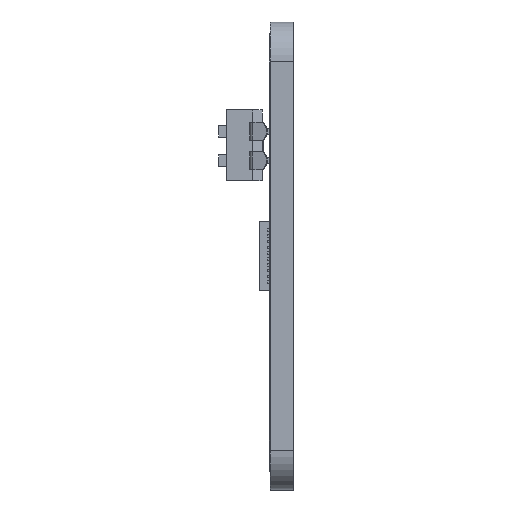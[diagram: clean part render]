
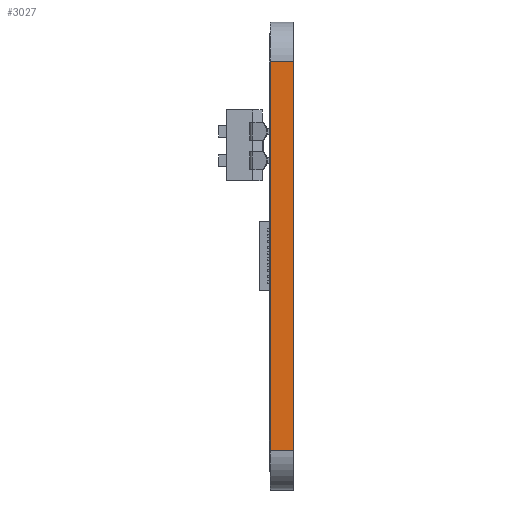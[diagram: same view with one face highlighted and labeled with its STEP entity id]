
A CAD part, left-side view. The second image highlights one B-rep face of the part: STEP entity #3027.
In plain terms, the highlighted planar face has unit normal (-1, 0, 0).
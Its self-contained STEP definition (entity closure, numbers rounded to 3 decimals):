
#2483 = EDGE_CURVE('',#2484,#2486,#2488,.T.);
#2484 = VERTEX_POINT('',#2485);
#2485 = CARTESIAN_POINT('',(-21.35,0.,-16.8));
#2486 = VERTEX_POINT('',#2487);
#2487 = CARTESIAN_POINT('',(-21.35,0.,16.8));
#2488 = LINE('',#2489,#2490);
#2489 = CARTESIAN_POINT('',(-21.35,0.,16.8));
#2490 = VECTOR('',#2491,1.);
#2491 = DIRECTION('',(0.,-0.,1.));
#2999 = EDGE_CURVE('',#3000,#2486,#3002,.T.);
#3000 = VERTEX_POINT('',#3001);
#3001 = CARTESIAN_POINT('',(-21.35,2.,16.8));
#3002 = LINE('',#3003,#3004);
#3003 = CARTESIAN_POINT('',(-21.35,0.,16.8));
#3004 = VECTOR('',#3005,1.);
#3005 = DIRECTION('',(-0.,-1.,-0.));
#3027 = ADVANCED_FACE('',(#3028),#3046,.T.);
#3028 = FACE_BOUND('',#3029,.T.);
#3029 = EDGE_LOOP('',(#3030,#3038,#3039,#3040));
#3030 = ORIENTED_EDGE('',*,*,#3031,.T.);
#3031 = EDGE_CURVE('',#3032,#2484,#3034,.T.);
#3032 = VERTEX_POINT('',#3033);
#3033 = CARTESIAN_POINT('',(-21.35,2.,-16.8));
#3034 = LINE('',#3035,#3036);
#3035 = CARTESIAN_POINT('',(-21.35,0.,-16.8));
#3036 = VECTOR('',#3037,1.);
#3037 = DIRECTION('',(-0.,-1.,0.));
#3038 = ORIENTED_EDGE('',*,*,#2483,.T.);
#3039 = ORIENTED_EDGE('',*,*,#2999,.F.);
#3040 = ORIENTED_EDGE('',*,*,#3041,.T.);
#3041 = EDGE_CURVE('',#3000,#3032,#3042,.T.);
#3042 = LINE('',#3043,#3044);
#3043 = CARTESIAN_POINT('',(-21.35,2.,-16.8));
#3044 = VECTOR('',#3045,1.);
#3045 = DIRECTION('',(0.,-0.,-1.));
#3046 = PLANE('',#3047);
#3047 = AXIS2_PLACEMENT_3D('',#3048,#3049,#3050);
#3048 = CARTESIAN_POINT('',(-21.35,0.,-16.8));
#3049 = DIRECTION('',(-1.,0.,0.));
#3050 = DIRECTION('',(0.,0.,1.));
